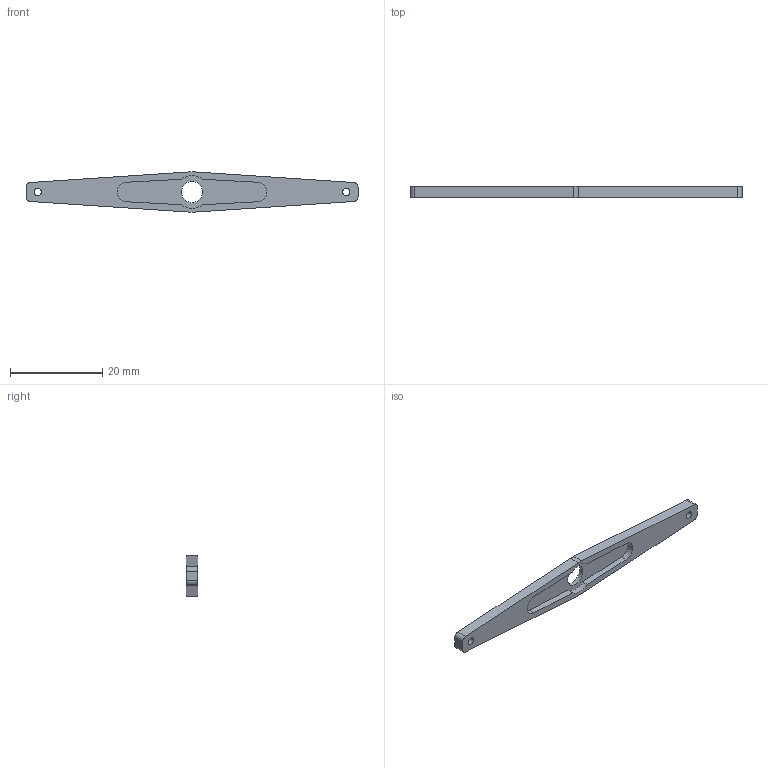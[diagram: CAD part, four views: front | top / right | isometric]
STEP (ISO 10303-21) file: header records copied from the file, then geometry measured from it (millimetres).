
FILE_DESCRIPTION(/* description */ (''),/* implementation_level */ '2;1');
FILE_NAME(/* name */ '',/* time_stamp */ '2026-08-05T11:44:14+03:00',/* author */ (''),/* organization */ (''),/* preprocessor_version */ 'ST-DEVELOPER v20.1',/* originating_system */ 'Autodesk Translation Framework v15.8.0.0',/* authorisation */ '');
FILE_SCHEMA (('AUTOMOTIVE_DESIGN { 1 0 10303 214 3 1 1 }'));
Length unit declared in the file: millimetre
Products named in the file (2): Engine_pylon; [4145] TowerPro SG90 Mini Servo-SunRobotics_in-Pt3
Assembly tree (1 placements, depth 2):
  Engine_pylon
    [4145] TowerPro SG90 Mini Servo-SunRobotics_in-Pt3
Bounding box: 72 x 2.4 x 8.72 mm (x, y, z)
Volume: 852.4 mm3; surface area: 1376 mm2
Topology: 1 solids, 1 shells, 26 faces, 69 edges, 46 vertices
Faces by surface type: plane 15, cylinder 11
Full cylindrical faces by diameter (mm): 1.6 x2, 4.6 x1
Entity records: 887 total; most frequent: DIRECTION 149, CARTESIAN_POINT 144, ORIENTED_EDGE 138, EDGE_CURVE 69, AXIS2_PLACEMENT_3D 51, LINE 47, VECTOR 47, VERTEX_POINT 46
